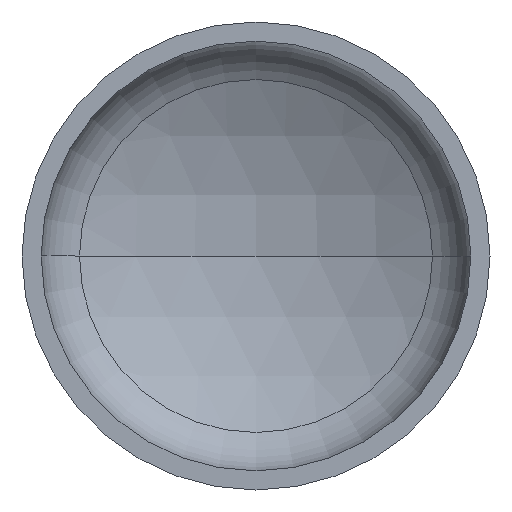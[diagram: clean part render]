
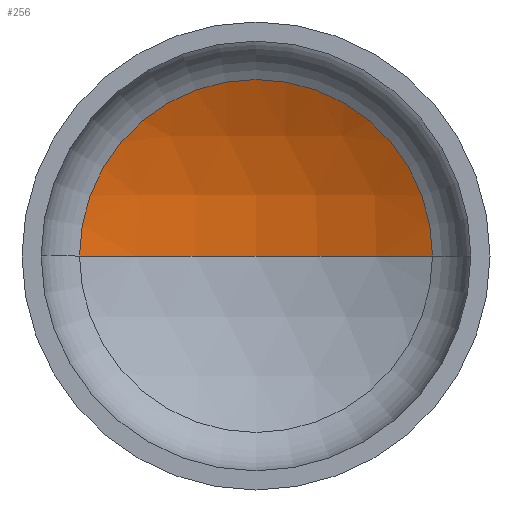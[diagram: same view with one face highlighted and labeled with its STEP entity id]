
A CAD part, front view. The second image highlights one B-rep face of the part: STEP entity #256.
In plain terms, the highlighted spherical face has radius 800 mm.
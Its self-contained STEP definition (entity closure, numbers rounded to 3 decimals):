
#3 = CARTESIAN_POINT ( 'NONE',  ( -377.054, 266.704, 0. ) ) ;
#6 = AXIS2_PLACEMENT_3D ( 'NONE', #287, #97, #308 ) ;
#7 = AXIS2_PLACEMENT_3D ( 'NONE', #410, #284, #96 ) ;
#9 = CARTESIAN_POINT ( 'NONE',  ( 0., -438.866, 0. ) ) ;
#33 = ORIENTED_EDGE ( 'NONE', *, *, #379, .T. ) ;
#44 = AXIS2_PLACEMENT_3D ( 'NONE', #9, #238, #235 ) ;
#50 = VERTEX_POINT ( 'NONE', #262 ) ;
#82 = VERTEX_POINT ( 'NONE', #185 ) ;
#91 = ORIENTED_EDGE ( 'NONE', *, *, #378, .T. ) ;
#96 = DIRECTION ( 'NONE',  ( 1., 0., 0. ) ) ;
#97 = DIRECTION ( 'NONE',  ( 0., 0., -1. ) ) ;
#110 = SPHERICAL_SURFACE ( 'NONE', #44, 800. ) ;
#154 = CIRCLE ( 'NONE', #259, 377.054 ) ;
#165 = ORIENTED_EDGE ( 'NONE', *, *, #360, .F. ) ;
#175 = VERTEX_POINT ( 'NONE', #3 ) ;
#185 = CARTESIAN_POINT ( 'NONE',  ( 377.054, 266.704, 0. ) ) ;
#194 = CARTESIAN_POINT ( 'NONE',  ( 0., 266.704, 0. ) ) ;
#211 = FACE_OUTER_BOUND ( 'NONE', #411, .T. ) ;
#224 = DIRECTION ( 'NONE',  ( 1., 0., 0. ) ) ;
#235 = DIRECTION ( 'NONE',  ( -1., 0., 0. ) ) ;
#238 = DIRECTION ( 'NONE',  ( 0., 0., -1. ) ) ;
#256 = ADVANCED_FACE ( 'NONE', ( #211 ), #110, .F. ) ;
#259 = AXIS2_PLACEMENT_3D ( 'NONE', #194, #351, #224 ) ;
#262 = CARTESIAN_POINT ( 'NONE',  ( 0., 361.134, 0. ) ) ;
#284 = DIRECTION ( 'NONE',  ( 0., 0., 1. ) ) ;
#287 = CARTESIAN_POINT ( 'NONE',  ( 0., -438.866, 0. ) ) ;
#293 = CIRCLE ( 'NONE', #7, 800. ) ;
#308 = DIRECTION ( 'NONE',  ( -1., 0., 0. ) ) ;
#351 = DIRECTION ( 'NONE',  ( 0., -1., 0. ) ) ;
#360 = EDGE_CURVE ( 'NONE', #50, #175, #293, .T. ) ;
#378 = EDGE_CURVE ( 'NONE', #50, #82, #399, .T. ) ;
#379 = EDGE_CURVE ( 'NONE', #82, #175, #154, .T. ) ;
#399 = CIRCLE ( 'NONE', #6, 800. ) ;
#410 = CARTESIAN_POINT ( 'NONE',  ( 0., -438.866, 0. ) ) ;
#411 = EDGE_LOOP ( 'NONE', ( #165, #91, #33 ) ) ;
